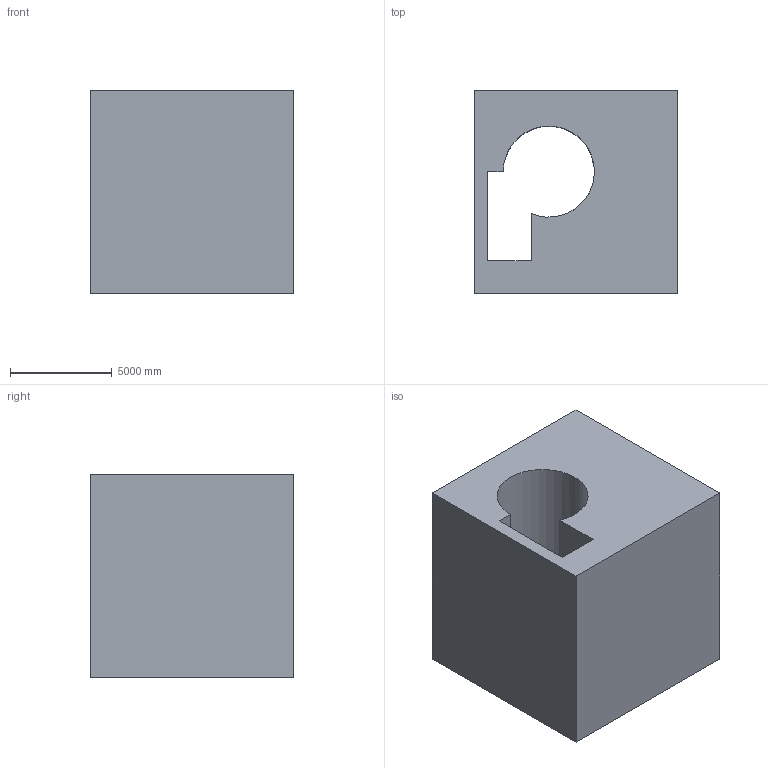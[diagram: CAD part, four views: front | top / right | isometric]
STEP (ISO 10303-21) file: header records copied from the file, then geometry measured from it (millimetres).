
FILE_DESCRIPTION (( 'STEP AP203' ), '1' );
FILE_NAME ('214.STEP', '2022-07-28T13:55:39', ( 'user' ), ( '' ), 'SwSTEP 2.0', 'SolidWorks 2021', '' );
FILE_SCHEMA (( 'CONFIG_CONTROL_DESIGN' ));
Length unit declared in the file: centimetre
Products named in the file (1): 214
Bounding box: 10000 x 10000 x 10000 mm (x, y, z)
Volume: 741993688497.9 mm3; surface area: 813724686.4 mm2
Topology: 2 solids, 2 shells, 20 faces, 51 edges, 34 vertices
Faces by surface type: plane 12, cylinder 8
Entity records: 1172 total; most frequent: CARTESIAN_POINT 603, ORIENTED_EDGE 102, DIRECTION 97, EDGE_CURVE 51, VERTEX_POINT 34, VECTOR 33, LINE 33, AXIS2_PLACEMENT_3D 32
